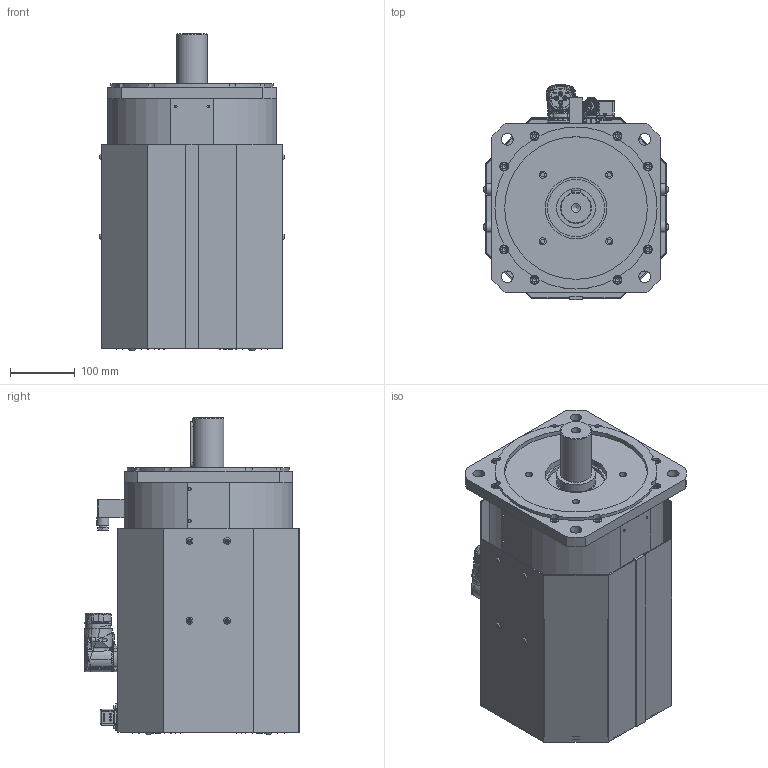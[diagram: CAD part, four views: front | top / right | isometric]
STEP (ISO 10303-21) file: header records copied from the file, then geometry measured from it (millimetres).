
FILE_DESCRIPTION(/* description */ (''),/* implementation_level */ '2;1');
FILE_NAME(/* name */ 'C:\Users\Public\Documents\Autodesk\Inventor LT 2014\Workspace\Motori Sito WEB\TG_7\NEW TG_7\DSF5_7\DSF5_71_x199.stp',/* time_stamp */ '2021-10-28T14:34:28+02:00',/* author */ ('marcor'),/* organization */ (''),/* preprocessor_version */ 'ST-DEVELOPER v15.2',/* originating_system */ 'Autodesk Inventor LT ',/* authorisation */ '');
FILE_SCHEMA (('AUTOMOTIVE_DESIGN { 1 0 10303 214 3 1 1 }'));
Products named in the file (1): DSF5_71_x199
Bounding box: 285.6 x 332.55 x 488 mm (x, y, z)
Volume: 18088738.8 mm3; surface area: 1608575.2 mm2
Topology: 40 solids, 69 shells, 2679 faces, 6645 edges, 4299 vertices
Faces by surface type: plane 1156, cylinder 614, cone 493, bspline 224, torus 155, sphere 37
Full cylindrical faces by diameter (mm): 1.2 x12, 2 x2, 2.013 x8, 2.2 x4, 2.224 x4, 2.4 x6, 2.459 x5, 2.5 x4, 2.88 x4, 3 x12, 3.242 x3, 3.26 x4, 3.5 x2, 3.6 x5, 4 x7, 4.134 x4, 4.5 x15, 4.8 x4, 4.917 x24, 5 x4, 5.4 x1, 5.5 x3, 5.9 x1, 6 x20, 6.5 x24, 6.647 x8, 7 x15, 7.5 x2, 8 x11, 8.376 x2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
Entity records: 87060 total; most frequent: CARTESIAN_POINT 27353, ORIENTED_EDGE 11548, DIRECTION 11402, EDGE_CURVE 5730, AXIS2_PLACEMENT_3D 4542, VERTEX_POINT 4026, EDGE_LOOP 3634, ADVANCED_FACE 2679
